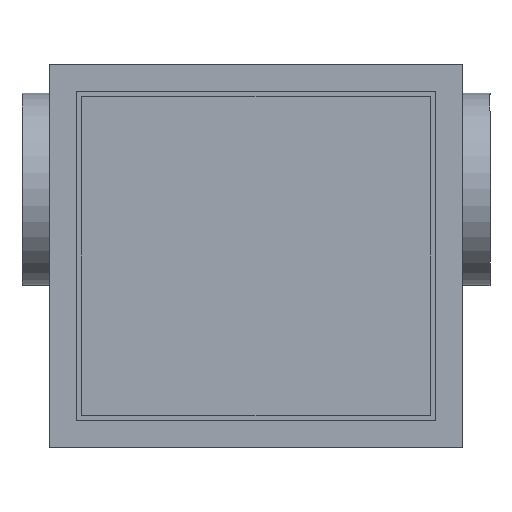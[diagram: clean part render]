
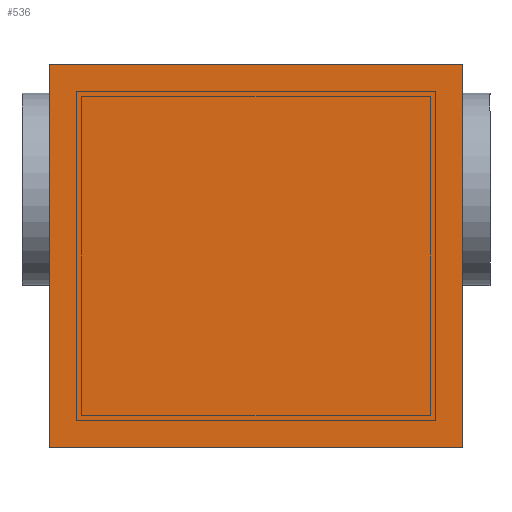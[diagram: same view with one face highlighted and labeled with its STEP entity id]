
A CAD part, front view. The second image highlights one B-rep face of the part: STEP entity #536.
In plain terms, the highlighted planar face has unit normal (0, -1, 0).
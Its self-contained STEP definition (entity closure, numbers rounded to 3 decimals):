
#56=FACE_OUTER_BOUND('',#91,.T.);
#91=EDGE_LOOP('',(#421,#422,#423,#424));
#149=LINE('',#811,#209);
#152=LINE('',#816,#212);
#154=LINE('',#820,#214);
#156=LINE('',#823,#216);
#209=VECTOR('',#657,10.);
#212=VECTOR('',#662,10.);
#214=VECTOR('',#666,10.);
#216=VECTOR('',#670,10.);
#261=VERTEX_POINT('',#809);
#262=VERTEX_POINT('',#810);
#263=VERTEX_POINT('',#815);
#264=VERTEX_POINT('',#819);
#317=EDGE_CURVE('',#261,#262,#149,.T.);
#320=EDGE_CURVE('',#262,#263,#152,.T.);
#322=EDGE_CURVE('',#263,#264,#154,.T.);
#324=EDGE_CURVE('',#264,#261,#156,.T.);
#421=ORIENTED_EDGE('',*,*,#324,.T.);
#422=ORIENTED_EDGE('',*,*,#317,.T.);
#423=ORIENTED_EDGE('',*,*,#320,.T.);
#424=ORIENTED_EDGE('',*,*,#322,.T.);
#507=PLANE('',#578);
#536=ADVANCED_FACE('',(#56),#507,.T.);
#578=AXIS2_PLACEMENT_3D('',#824,#671,#672);
#657=DIRECTION('',(1.,0.,0.));
#662=DIRECTION('',(0.,0.,1.));
#666=DIRECTION('',(-1.,0.,0.));
#670=DIRECTION('',(0.,0.,-1.));
#671=DIRECTION('center_axis',(0.,-1.,0.));
#672=DIRECTION('ref_axis',(0.,0.,-1.));
#809=CARTESIAN_POINT('',(-381.5,-381.5,-354.));
#810=CARTESIAN_POINT('',(381.5,-381.5,-354.));
#811=CARTESIAN_POINT('',(-381.5,-381.5,-354.));
#815=CARTESIAN_POINT('',(381.5,-381.5,354.));
#816=CARTESIAN_POINT('',(381.5,-381.5,-354.));
#819=CARTESIAN_POINT('',(-381.5,-381.5,354.));
#820=CARTESIAN_POINT('',(381.5,-381.5,354.));
#823=CARTESIAN_POINT('',(-381.5,-381.5,354.));
#824=CARTESIAN_POINT('Origin',(0.,-381.5,0.));
